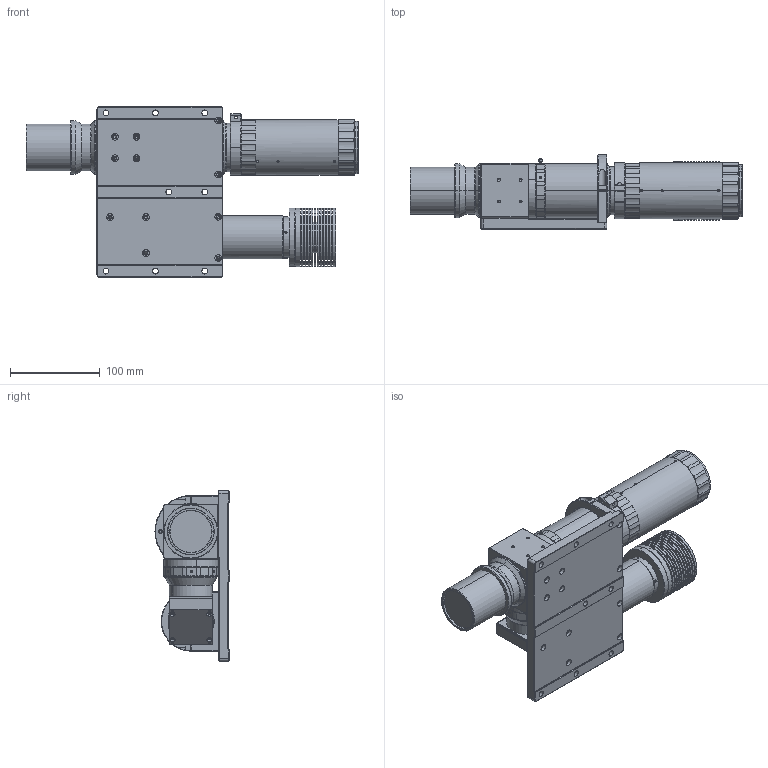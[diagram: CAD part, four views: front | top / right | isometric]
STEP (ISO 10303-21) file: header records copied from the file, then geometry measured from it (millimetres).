
FILE_DESCRIPTION (( 'STEP AP203' ), '1' );
FILE_NAME ('DTCA35F-11CL30-G-M58-ALV3.STEP', '2024-03-18T03:06:19', ( '' ), ( '' ), 'SwSTEP 2.0', 'SolidWorks 2017', '' );
FILE_SCHEMA (( 'CONFIG_CONTROL_DESIGN' ));
Products named in the file (1): DTCA35F-11CL30-G-M58-ALV3
Bounding box: 369.4 x 82.53 x 190 mm (x, y, z)
Volume: 1928888.4 mm3; surface area: 309613.2 mm2
Topology: 1 solids, 9 shells, 1645 faces, 4149 edges, 2550 vertices
Faces by surface type: cylinder 657, plane 487, cone 477, torus 16, bspline 6, sphere 2
Entity records: 53076 total; most frequent: CARTESIAN_POINT 13329, DIRECTION 8612, ORIENTED_EDGE 8190, EDGE_CURVE 4095, AXIS2_PLACEMENT_3D 3491, VERTEX_POINT 2550, EDGE_LOOP 1883, CIRCLE 1851
